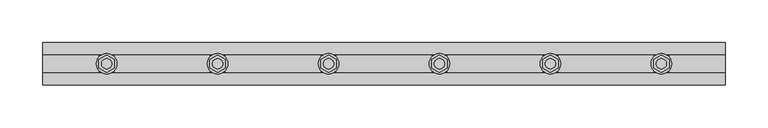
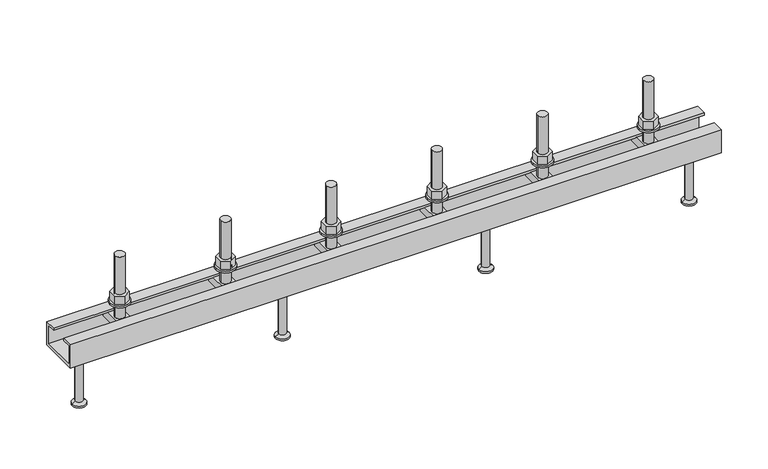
"""IFC4 building model written with IfcOpenShell, lengths in millimetres: fastener geometry, JTA-K JORDAHL® AnchorChannels : JTA-K L=800 mm."""

import ifcopenshell
import ifcopenshell.guid

model = None  # the IFC model being written
_history = None  # IfcOwnerHistory: only IFC2X3 demands one
_inside = {}  # id of a spatial element -> (the spatial element, [elements in it])
_under = {}  # id of a project, library or spatial element -> (it, [spatial elements below it])
_declared = {}  # id of a project -> (the project, [libraries it declares])
_typed = {}  # id of a type object -> (the type object, [elements of that type])
_made_of = {}  # id of a material, layer set ... -> (it, [elements and type objects made of it])


def new_model(schema):
    """Start an empty IFC model of exactly this schema.

    Asked for "IFC4X3", IfcOpenShell would pick the latest addendum, in which some entities
    have other attributes; the version numbers below select the first issue.
    IFC2X3 requires an IfcOwnerHistory on every rooted entity: one is made here for all.
    """
    global model, _history
    if schema == "IFC4X3":
        model = ifcopenshell.file(schema_version=(4, 3, 0, 0))
    else:
        model = ifcopenshell.file(schema=schema)
    _inside.clear()
    _under.clear()
    _declared.clear()
    _typed.clear()
    _made_of.clear()
    _history = None
    if model.schema == "IFC2X3":
        org = make("IfcOrganization", Name="unknown")
        user = make(
            "IfcPersonAndOrganization",
            ThePerson=make("IfcPerson", FamilyName="unknown"),
            TheOrganization=org,
        )
        app = make(
            "IfcApplication",
            ApplicationDeveloper=org,
            Version="unknown",
            ApplicationFullName="unknown",
            ApplicationIdentifier="unknown",
        )
        _history = make(
            "IfcOwnerHistory",
            OwningUser=user,
            OwningApplication=app,
            ChangeAction="ADDED",
            CreationDate=0,
        )
    return model


def make(cls, **values):
    """One entity of the class cls with the attributes given. An attribute that is None is left unset."""
    return model.create_entity(
        cls, **{name: value for name, value in values.items() if value is not None}
    )


def rooted(cls, **values):
    """An entity with a GlobalId (a new one), such as an element, a storey or a relation."""
    return make(cls, GlobalId=ifcopenshell.guid.new(), OwnerHistory=_history, **values)


def si_unit(unit_type, name, prefix=None):
    """IfcSIUnit, for example si_unit("LENGTHUNIT", "METRE", prefix="MILLI")."""
    return make("IfcSIUnit", UnitType=unit_type, Prefix=prefix, Name=name)


def assignment(units):
    """IfcUnitAssignment: the units of a project."""
    return None if units is None else make("IfcUnitAssignment", Units=units)


def point(xyz):
    """IfcCartesianPoint."""
    return None if xyz is None else make("IfcCartesianPoint", Coordinates=xyz)


def direction(xyz):
    """IfcDirection."""
    return None if xyz is None else make("IfcDirection", DirectionRatios=xyz)


def frame(location, z_axis=None, x_axis=None):
    """IfcAxis2Placement3D, a coordinate frame: its origin and axes. An axis left out is left unset."""
    return make(
        "IfcAxis2Placement3D",
        Location=point(location),
        Axis=direction(z_axis),
        RefDirection=direction(x_axis),
    )


def frame_2d(location, x_axis=None):
    """IfcAxis2Placement2D, a coordinate frame in the plane: its origin and x axis."""
    return make(
        "IfcAxis2Placement2D", Location=point(location), RefDirection=direction(x_axis)
    )


def origin():
    """The frame at (0, 0, 0) with its axes left unset."""
    return frame((0.0, 0.0, 0.0))


def place(relative_to, where):
    """IfcLocalPlacement: puts the frame where relative to a parent placement (None: the world)."""
    return make(
        "IfcLocalPlacement", PlacementRelTo=relative_to, RelativePlacement=where
    )


def context(
    kind, dimensions, precision=None, world=None, true_north=None, identifier=None
):
    """IfcGeometricRepresentationContext, for example the 3D "Model" context."""
    return make(
        "IfcGeometricRepresentationContext",
        ContextIdentifier=identifier,
        ContextType=kind,
        CoordinateSpaceDimension=dimensions,
        Precision=precision,
        WorldCoordinateSystem=world,
        TrueNorth=true_north,
    )


def project(units=None, contexts=None):
    """IfcProject with its units and contexts."""
    return rooted(
        "IfcProject",
        Name="project",
        RepresentationContexts=contexts,
        UnitsInContext=assignment(units),
    )


def spatial(cls, under=None, at=None, **own):
    """A site, building, storey or space (cls), placed at a placement, below another one or the project."""
    s = rooted(cls, ObjectPlacement=at, **own)
    if under is not None:
        _under.setdefault(under.id(), (under, []))[1].append(s)
    return s


def polyline(points):
    """IfcPolyline through the points."""
    return make("IfcPolyline", Points=[point(p) for p in points])


def circle_curve(where, radius):
    """IfcCircle in the frame where."""
    return make("IfcCircle", Position=where, Radius=radius)


def trimmed(basis, trim1, trim2, sense, master):
    """IfcTrimmedCurve: the piece of a basis curve between two trims."""
    return make(
        "IfcTrimmedCurve",
        BasisCurve=basis,
        Trim1=trim1,
        Trim2=trim2,
        SenseAgreement=sense,
        MasterRepresentation=master,
    )


def segment(curve, same_sense, transition):
    """IfcCompositeCurveSegment."""
    return make(
        "IfcCompositeCurveSegment",
        Transition=transition,
        SameSense=same_sense,
        ParentCurve=curve,
    )


def composite_curve(segments, self_intersect=None):
    """IfcCompositeCurve: segments joined end to end."""
    return make("IfcCompositeCurve", Segments=segments, SelfIntersect=self_intersect)


def outline(outer, holes=None, kind="AREA"):
    """IfcArbitraryClosedProfileDef: a profile drawn as a closed curve; with holes, ...WithVoids."""
    if holes is None:
        return make("IfcArbitraryClosedProfileDef", ProfileType=kind, OuterCurve=outer)
    return make(
        "IfcArbitraryProfileDefWithVoids",
        ProfileType=kind,
        OuterCurve=outer,
        InnerCurves=holes,
    )


def extrude(swept, where, along, depth):
    """IfcExtrudedAreaSolid: the profile swept, set in the frame where, extruded along a direction by depth."""
    return make(
        "IfcExtrudedAreaSolid",
        SweptArea=swept,
        Position=where,
        ExtrudedDirection=direction(along),
        Depth=depth,
    )


def shape(context_of_items, identifier, shape_type, items):
    """IfcShapeRepresentation: the items that make up one representation, for example the "Body"."""
    return make(
        "IfcShapeRepresentation",
        ContextOfItems=context_of_items,
        RepresentationIdentifier=identifier,
        RepresentationType=shape_type,
        Items=items,
    )


def source(mapping_origin, context_of_items, identifier, shape_type, items):
    """IfcRepresentationMap: a shape defined once, which mapped items show again and again."""
    return make(
        "IfcRepresentationMap",
        MappingOrigin=mapping_origin,
        MappedRepresentation=shape(context_of_items, identifier, shape_type, items),
    )


def transform(
    local_origin,
    x_axis=None,
    y_axis=None,
    z_axis=None,
    scale=None,
    scale2=None,
    scale3=None,
    uniform=True,
):
    """IfcCartesianTransformationOperator3D, or its non-uniform kind. x_axis, y_axis, z_axis: its Axis1, 2, 3."""
    if uniform:
        return make(
            "IfcCartesianTransformationOperator3D",
            Axis1=direction(x_axis),
            Axis2=direction(y_axis),
            LocalOrigin=point(local_origin),
            Scale=scale,
            Axis3=direction(z_axis),
        )
    return make(
        "IfcCartesianTransformationOperator3DnonUniform",
        Axis1=direction(x_axis),
        Axis2=direction(y_axis),
        LocalOrigin=point(local_origin),
        Scale=scale,
        Axis3=direction(z_axis),
        Scale2=scale2,
        Scale3=scale3,
    )


def mapped(mapping_source, mapping_target):
    """IfcMappedItem: shows the shape of a source again, moved by a transform."""
    return make(
        "IfcMappedItem", MappingSource=mapping_source, MappingTarget=mapping_target
    )


def made_of(thing, what):
    """Note that an element or type object is made of a material, layer set ...; save() writes the relation."""
    if what is not None:
        _made_of.setdefault(what.id(), (what, []))[1].append(thing)
    return thing


def element(
    cls,
    number,
    at=None,
    inside=None,
    cuts=None,
    type_object=None,
    material=None,
    context=None,
    identifier="Body",
    shape_type=None,
    held_by="IfcProductDefinitionShape",
    body=None,
    shapes=None,
    **own,
):
    """One element of the class cls, such as IfcWall. Its Tag is "e" and its number.

    at: its placement. inside: the storey or other place that contains it. cuts: it is an
    opening in that element (IfcRelVoidsElement). A single representation is given by context,
    identifier, shape_type and body (its items); several are given by shapes. held_by: the class
    of the entity that holds the representations. save() writes the other relations.
    """
    e = rooted(cls, Tag="e%d" % number, ObjectPlacement=at, **own)
    if body is not None:
        shapes = [shape(context, identifier, shape_type, body)]
    if shapes is not None:
        e.Representation = make(held_by, Representations=shapes)
    if inside is not None:
        _inside.setdefault(inside.id(), (inside, []))[1].append(e)
    if cuts is not None:
        rooted(
            "IfcRelVoidsElement", RelatingBuildingElement=cuts, RelatedOpeningElement=e
        )
    if type_object is not None:
        _typed.setdefault(type_object.id(), (type_object, []))[1].append(e)
    return made_of(e, material)


def aggregate(whole, parts):
    """IfcRelAggregates: a whole, such as a stair, and the parts it consists of."""
    return rooted("IfcRelAggregates", RelatingObject=whole, RelatedObjects=parts)


def save(model, path):
    """Write the relations noted so far, then the file.

    IfcRelAggregates (storeys below a building ...), IfcRelContainedInSpatialStructure (elements
    in a storey), IfcRelDefinesByType, IfcRelAssociatesMaterial and IfcRelDeclares: one each for
    every whole, place, type object, material and project.
    """
    for whole, parts in _under.values():
        aggregate(whole, parts)
    for where, things in _inside.values():
        rooted(
            "IfcRelContainedInSpatialStructure",
            RelatedElements=things,
            RelatingStructure=where,
        )
    for kind, things in _typed.values():
        rooted("IfcRelDefinesByType", RelatedObjects=things, RelatingType=kind)
    for what, things in _made_of.values():
        rooted("IfcRelAssociatesMaterial", RelatedObjects=things, RelatingMaterial=what)
    for by, libraries in _declared.values():
        rooted("IfcRelDeclares", RelatingContext=by, RelatedDefinitions=libraries)
    model.write(path)


def plane_surface(at):
    """IfcPlane: the flat surface through the origin of the frame at, square to its z axis."""
    return make("IfcPlane", Position=at)


def cylinder_surface(at, radius):
    """IfcCylindricalSurface: all points at the distance radius from the z axis of the frame at."""
    return make("IfcCylindricalSurface", Position=at, Radius=radius)


def revolved_surface(curve, axis_point, axis_direction):
    """IfcSurfaceOfRevolution: the curve turned about the line through axis_point along axis_direction."""
    return make(
        "IfcSurfaceOfRevolution",
        SweptCurve=make("IfcArbitraryOpenProfileDef", ProfileType="CURVE", Curve=curve),
        AxisPosition=make("IfcAxis1Placement", Location=point(axis_point), Axis=direction(axis_direction)),
    )


def advanced_brep(points, edges, surfaces, faces):
    """IfcAdvancedBrep: a solid bounded by faces that lie on surfaces and meet in shared edges.

    An edge is (start, end): straight between two places in points (the first is 0);
    or (start, end, curve); or (start, end, curve, False) where it runs against its curve.
    A face is (place in surfaces, loops), or (place, loops, False) where it looks against
    its surface's normal. A loop lists edges by number (the first is 1), with a minus sign
    where the edge is run from its end to its start. The first loop is the outer one.
    """
    corners = [point(p) for p in points]
    vertices = [make("IfcVertexPoint", VertexGeometry=c) for c in corners]
    made = []
    for start, end, *more in edges:
        made.append(
            make(
                "IfcEdgeCurve",
                EdgeStart=vertices[start],
                EdgeEnd=vertices[end],
                EdgeGeometry=more[0] if more else make("IfcPolyline", Points=[corners[start], corners[end]]),
                SameSense=more[1] if len(more) > 1 else True,
            )
        )
    hull = []
    for where, loops, *sense in faces:
        bounds = []
        for j, loop in enumerate(loops):
            ring = [make("IfcOrientedEdge", EdgeElement=made[abs(k) - 1], Orientation=k > 0) for k in loop]
            bounds.append(
                make(
                    "IfcFaceOuterBound" if j == 0 else "IfcFaceBound",
                    Bound=make("IfcEdgeLoop", EdgeList=ring),
                    Orientation=True,
                )
            )
        hull.append(make("IfcAdvancedFace", Bounds=bounds, FaceSurface=surfaces[where], SameSense=sense[0] if sense else True))
    return make("IfcAdvancedBrep", Outer=make("IfcClosedShell", CfsFaces=hull))


def fastener_23f97d67(model_context):
    return source(origin(), model_context, "Body", "SolidModel", [
        extrude(outline(polyline([(595.0, -10.3923048), (586.0, -5.1961524), (586.0, 5.1961524), (595.0, 10.3923048), (604.0, 5.1961524), (604.0, -5.1961524), (595.0, -10.3923048)]), holes=[composite_curve([segment(trimmed(circle_curve(frame_2d((595.0, 0.0)), 6.0), [point((589.0, 0.0))], [point((601.0, 0.0))], True, "CARTESIAN"), True, "CONTINUOUS"), segment(trimmed(circle_curve(frame_2d((595.0, 0.0)), 6.0), [point((601.0, 0.0))], [point((589.0, 0.0))], True, "CARTESIAN"), True, "CONTINUOUS")], self_intersect=False)]), frame((0.0, 0.0, 17.5), z_axis=(0.0, 0.0, 1.0), x_axis=(1.0, 0.0, 0.0)), (0.0, 0.0, 1.0), 10.8),
        extrude(outline(composite_curve([segment(trimmed(circle_curve(frame_2d((595.0, 0.0)), 12.0), [point((583.0, 0.0))], [point((607.0, 0.0))], False, "CARTESIAN"), True, "CONTINUOUS"), segment(trimmed(circle_curve(frame_2d((595.0, 0.0)), 12.0), [point((607.0, 0.0))], [point((583.0, 0.0))], False, "CARTESIAN"), True, "CONTINUOUS")], self_intersect=False), holes=[composite_curve([segment(trimmed(circle_curve(frame_2d((595.0, 0.0)), 6.5), [point((588.5, 0.0))], [point((601.5, 0.0))], True, "CARTESIAN"), True, "CONTINUOUS"), segment(trimmed(circle_curve(frame_2d((595.0, 0.0)), 6.5), [point((601.5, 0.0))], [point((588.5, 0.0))], True, "CARTESIAN"), True, "CONTINUOUS")], self_intersect=False)]), frame((0.0, 0.0, 15.0), z_axis=(0.0, 0.0, 1.0), x_axis=(1.0, 0.0, 0.0)), (0.0, 0.0, 1.0), 2.5),
        extrude(outline(polyline([(465.0, -10.3923048), (456.0, -5.1961524), (456.0, 5.1961524), (465.0, 10.3923048), (474.0, 5.1961524), (474.0, -5.1961524), (465.0, -10.3923048)]), holes=[composite_curve([segment(trimmed(circle_curve(frame_2d((465.0, 0.0)), 6.0), [point((459.0, 0.0))], [point((471.0, 0.0))], True, "CARTESIAN"), True, "CONTINUOUS"), segment(trimmed(circle_curve(frame_2d((465.0, 0.0)), 6.0), [point((471.0, 0.0))], [point((459.0, 0.0))], True, "CARTESIAN"), True, "CONTINUOUS")], self_intersect=False)]), frame((0.0, 0.0, 17.5), z_axis=(0.0, 0.0, 1.0), x_axis=(1.0, 0.0, 0.0)), (0.0, 0.0, 1.0), 10.8),
        extrude(outline(composite_curve([segment(trimmed(circle_curve(frame_2d((465.0, 0.0)), 12.0), [point((453.0, 0.0))], [point((477.0, 0.0))], False, "CARTESIAN"), True, "CONTINUOUS"), segment(trimmed(circle_curve(frame_2d((465.0, 0.0)), 12.0), [point((477.0, 0.0))], [point((453.0, 0.0))], False, "CARTESIAN"), True, "CONTINUOUS")], self_intersect=False), holes=[composite_curve([segment(trimmed(circle_curve(frame_2d((465.0, 0.0)), 6.5), [point((458.5, 0.0))], [point((471.5, 0.0))], True, "CARTESIAN"), True, "CONTINUOUS"), segment(trimmed(circle_curve(frame_2d((465.0, 0.0)), 6.5), [point((471.5, 0.0))], [point((458.5, 0.0))], True, "CARTESIAN"), True, "CONTINUOUS")], self_intersect=False)]), frame((0.0, 0.0, 15.0), z_axis=(0.0, 0.0, 1.0), x_axis=(1.0, 0.0, 0.0)), (0.0, 0.0, 1.0), 2.5),
        extrude(outline(polyline([(335.0, -10.3923048), (326.0, -5.1961524), (326.0, 5.1961524), (335.0, 10.3923048), (344.0, 5.1961524), (344.0, -5.1961524), (335.0, -10.3923048)]), holes=[composite_curve([segment(trimmed(circle_curve(frame_2d((335.0, 0.0)), 6.0), [point((329.0, 0.0))], [point((341.0, 0.0))], True, "CARTESIAN"), True, "CONTINUOUS"), segment(trimmed(circle_curve(frame_2d((335.0, 0.0)), 6.0), [point((341.0, 0.0))], [point((329.0, 0.0))], True, "CARTESIAN"), True, "CONTINUOUS")], self_intersect=False)]), frame((0.0, 0.0, 17.5), z_axis=(0.0, 0.0, 1.0), x_axis=(1.0, 0.0, 0.0)), (0.0, 0.0, 1.0), 10.8),
        extrude(outline(composite_curve([segment(trimmed(circle_curve(frame_2d((335.0, 0.0)), 12.0), [point((323.0, 0.0))], [point((347.0, 0.0))], False, "CARTESIAN"), True, "CONTINUOUS"), segment(trimmed(circle_curve(frame_2d((335.0, 0.0)), 12.0), [point((347.0, 0.0))], [point((323.0, 0.0))], False, "CARTESIAN"), True, "CONTINUOUS")], self_intersect=False), holes=[composite_curve([segment(trimmed(circle_curve(frame_2d((335.0, 0.0)), 6.5), [point((328.5, 0.0))], [point((341.5, 0.0))], True, "CARTESIAN"), True, "CONTINUOUS"), segment(trimmed(circle_curve(frame_2d((335.0, 0.0)), 6.5), [point((341.5, 0.0))], [point((328.5, 0.0))], True, "CARTESIAN"), True, "CONTINUOUS")], self_intersect=False)]), frame((0.0, 0.0, 15.0), z_axis=(0.0, 0.0, 1.0), x_axis=(1.0, 0.0, 0.0)), (0.0, 0.0, 1.0), 2.5),
        extrude(outline(polyline([(205.0, -10.3923048), (196.0, -5.1961524), (196.0, 5.1961524), (205.0, 10.3923048), (214.0, 5.1961524), (214.0, -5.1961524), (205.0, -10.3923048)]), holes=[composite_curve([segment(trimmed(circle_curve(frame_2d((205.0, 0.0)), 6.0), [point((199.0, 0.0))], [point((211.0, 0.0))], True, "CARTESIAN"), True, "CONTINUOUS"), segment(trimmed(circle_curve(frame_2d((205.0, 0.0)), 6.0), [point((211.0, 0.0))], [point((199.0, 0.0))], True, "CARTESIAN"), True, "CONTINUOUS")], self_intersect=False)]), frame((0.0, 0.0, 17.5), z_axis=(0.0, 0.0, 1.0), x_axis=(1.0, 0.0, 0.0)), (0.0, 0.0, 1.0), 10.8),
        extrude(outline(composite_curve([segment(trimmed(circle_curve(frame_2d((205.0, 0.0)), 12.0), [point((193.0, 0.0))], [point((217.0, 0.0))], False, "CARTESIAN"), True, "CONTINUOUS"), segment(trimmed(circle_curve(frame_2d((205.0, 0.0)), 12.0), [point((217.0, 0.0))], [point((193.0, 0.0))], False, "CARTESIAN"), True, "CONTINUOUS")], self_intersect=False), holes=[composite_curve([segment(trimmed(circle_curve(frame_2d((205.0, 0.0)), 6.5), [point((198.5, 0.0))], [point((211.5, 0.0))], True, "CARTESIAN"), True, "CONTINUOUS"), segment(trimmed(circle_curve(frame_2d((205.0, 0.0)), 6.5), [point((211.5, 0.0))], [point((198.5, 0.0))], True, "CARTESIAN"), True, "CONTINUOUS")], self_intersect=False)]), frame((0.0, 0.0, 15.0), z_axis=(0.0, 0.0, 1.0), x_axis=(1.0, 0.0, 0.0)), (0.0, 0.0, 1.0), 2.5),
        advanced_brep(
        [(603.5, -20.7, -3.0), (603.5, -20.7, -13.0), (603.5, 20.7, -13.0), (603.5, 20.7, -3.0), (586.5, -20.7, -3.0), (586.5, 20.7, -3.0), (586.5, 20.7, -13.0), (586.5, -20.7, -13.0), (601.0, 0.0, -3.0), (589.0, 0.0, -3.0), (589.0, 0.0, 77.0), (601.0, 0.0, 77.0)],
        [
            (0, 1),
            (1, 2),
            (2, 3),
            (3, 0),
            (4, 5),
            (5, 6),
            (6, 7),
            (7, 4),
            (3, 5),
            (4, 0),
            (8, 9, circle_curve(frame((595.0, 0.0, -3.0), z_axis=(0.0, 0.0, -1.0), x_axis=(1.0, 0.0, 0.0)), 6.0)),
            (9, 8, circle_curve(frame((595.0, 0.0, -3.0), z_axis=(0.0, 0.0, -1.0), x_axis=(1.0, 0.0, 0.0)), 6.0)),
            (2, 6),
            (1, 7),
            (10, 11, circle_curve(frame((595.0, 0.0, 77.0), z_axis=(0.0, 0.0, 1.0), x_axis=(1.0, 0.0, 0.0)), 6.0)),
            (11, 10, circle_curve(frame((595.0, 0.0, 77.0), z_axis=(0.0, 0.0, 1.0), x_axis=(1.0, 0.0, 0.0)), 6.0)),
            (11, 8),
            (9, 10),
        ],
        [
            plane_surface(frame((603.5, 20.7, -3.0), z_axis=(1.0, 0.0, 0.0), x_axis=(0.0, 1.0, 0.0))),
            plane_surface(frame((586.5, 20.7, -3.0), z_axis=(-1.0, 0.0, 0.0), x_axis=(0.0, -1.0, 0.0))),
            plane_surface(frame((603.5, -20.7, -3.0), z_axis=(0.0, 0.0, 1.0), x_axis=(-1.0, 0.0, 0.0))),
            plane_surface(frame((603.5, 20.7, -3.0), z_axis=(0.0, 1.0, 0.0), x_axis=(-1.0, 0.0, 0.0))),
            plane_surface(frame((603.5, 20.7, -13.0), z_axis=(0.0, 0.0, -1.0), x_axis=(-1.0, 0.0, 0.0))),
            plane_surface(frame((603.5, -20.7, -13.0), z_axis=(0.0, -1.0, 0.0), x_axis=(-1.0, 0.0, 0.0))),
            plane_surface(frame((601.0, 0.0, 77.0), z_axis=(0.0, 0.0, 1.0), x_axis=(0.0, -1.0, 0.0))),
            cylinder_surface(frame((595.0, 0.0, -3.0), z_axis=(0.0, 0.0, 1.0), x_axis=(1.0, 0.0, 0.0)), 6.0),
        ],
        [
            (0, [[1, 2, 3, 4]]),
            (1, [[5, 6, 7, 8]]),
            (2, [[9, -5, 10, -4], [11, 12]]),
            (3, [[13, -6, -9, -3]]),
            (4, [[14, -7, -13, -2]]),
            (5, [[-10, -8, -14, -1]]),
            (6, [[15, 16]]),
            (7, [[17, -12, 18, -16]]),
            (7, [[-18, -11, -17, -15]]),
        ],
    ),
        advanced_brep(
        [(473.5, -20.7, -3.0), (473.5, -20.7, -13.0), (473.5, 20.7, -13.0), (473.5, 20.7, -3.0), (456.5, -20.7, -3.0), (456.5, 20.7, -3.0), (456.5, 20.7, -13.0), (456.5, -20.7, -13.0), (471.0, 0.0, -3.0), (459.0, 0.0, -3.0), (459.0, 0.0, 77.0), (471.0, 0.0, 77.0)],
        [
            (0, 1),
            (1, 2),
            (2, 3),
            (3, 0),
            (4, 5),
            (5, 6),
            (6, 7),
            (7, 4),
            (3, 5),
            (4, 0),
            (8, 9, circle_curve(frame((465.0, 0.0, -3.0), z_axis=(0.0, 0.0, -1.0), x_axis=(1.0, 0.0, 0.0)), 6.0)),
            (9, 8, circle_curve(frame((465.0, 0.0, -3.0), z_axis=(0.0, 0.0, -1.0), x_axis=(1.0, 0.0, 0.0)), 6.0)),
            (2, 6),
            (1, 7),
            (10, 11, circle_curve(frame((465.0, 0.0, 77.0), z_axis=(0.0, 0.0, 1.0), x_axis=(1.0, 0.0, 0.0)), 6.0)),
            (11, 10, circle_curve(frame((465.0, 0.0, 77.0), z_axis=(0.0, 0.0, 1.0), x_axis=(1.0, 0.0, 0.0)), 6.0)),
            (11, 8),
            (9, 10),
        ],
        [
            plane_surface(frame((473.5, 20.7, -3.0), z_axis=(1.0, 0.0, 0.0), x_axis=(0.0, 1.0, 0.0))),
            plane_surface(frame((456.5, 20.7, -3.0), z_axis=(-1.0, 0.0, 0.0), x_axis=(0.0, -1.0, 0.0))),
            plane_surface(frame((473.5, -20.7, -3.0), z_axis=(0.0, 0.0, 1.0), x_axis=(-1.0, 0.0, 0.0))),
            plane_surface(frame((473.5, 20.7, -3.0), z_axis=(0.0, 1.0, 0.0), x_axis=(-1.0, 0.0, 0.0))),
            plane_surface(frame((473.5, 20.7, -13.0), z_axis=(0.0, 0.0, -1.0), x_axis=(-1.0, 0.0, 0.0))),
            plane_surface(frame((473.5, -20.7, -13.0), z_axis=(0.0, -1.0, 0.0), x_axis=(-1.0, 0.0, 0.0))),
            plane_surface(frame((471.0, 0.0, 77.0), z_axis=(0.0, 0.0, 1.0), x_axis=(0.0, -1.0, 0.0))),
            cylinder_surface(frame((465.0, 0.0, -3.0), z_axis=(0.0, 0.0, 1.0), x_axis=(1.0, 0.0, 0.0)), 6.0),
        ],
        [
            (0, [[1, 2, 3, 4]]),
            (1, [[5, 6, 7, 8]]),
            (2, [[9, -5, 10, -4], [11, 12]]),
            (3, [[13, -6, -9, -3]]),
            (4, [[14, -7, -13, -2]]),
            (5, [[-10, -8, -14, -1]]),
            (6, [[15, 16]]),
            (7, [[17, -12, 18, -16]]),
            (7, [[-18, -11, -17, -15]]),
        ],
    ),
        advanced_brep(
        [(343.5, -20.7, -3.0), (343.5, -20.7, -13.0), (343.5, 20.7, -13.0), (343.5, 20.7, -3.0), (326.5, -20.7, -3.0), (326.5, 20.7, -3.0), (326.5, 20.7, -13.0), (326.5, -20.7, -13.0), (341.0, 0.0, -3.0), (329.0, 0.0, -3.0), (329.0, 0.0, 77.0), (341.0, 0.0, 77.0)],
        [
            (0, 1),
            (1, 2),
            (2, 3),
            (3, 0),
            (4, 5),
            (5, 6),
            (6, 7),
            (7, 4),
            (3, 5),
            (4, 0),
            (8, 9, circle_curve(frame((335.0, 0.0, -3.0), z_axis=(0.0, 0.0, -1.0), x_axis=(1.0, 0.0, 0.0)), 6.0)),
            (9, 8, circle_curve(frame((335.0, 0.0, -3.0), z_axis=(0.0, 0.0, -1.0), x_axis=(1.0, 0.0, 0.0)), 6.0)),
            (2, 6),
            (1, 7),
            (10, 11, circle_curve(frame((335.0, 0.0, 77.0), z_axis=(0.0, 0.0, 1.0), x_axis=(1.0, 0.0, 0.0)), 6.0)),
            (11, 10, circle_curve(frame((335.0, 0.0, 77.0), z_axis=(0.0, 0.0, 1.0), x_axis=(1.0, 0.0, 0.0)), 6.0)),
            (11, 8),
            (9, 10),
        ],
        [
            plane_surface(frame((343.5, 20.7, -3.0), z_axis=(1.0, 0.0, 0.0), x_axis=(0.0, 1.0, 0.0))),
            plane_surface(frame((326.5, 20.7, -3.0), z_axis=(-1.0, 0.0, 0.0), x_axis=(0.0, -1.0, 0.0))),
            plane_surface(frame((343.5, -20.7, -3.0), z_axis=(0.0, 0.0, 1.0), x_axis=(-1.0, 0.0, 0.0))),
            plane_surface(frame((343.5, 20.7, -3.0), z_axis=(0.0, 1.0, 0.0), x_axis=(-1.0, 0.0, 0.0))),
            plane_surface(frame((343.5, 20.7, -13.0), z_axis=(0.0, 0.0, -1.0), x_axis=(-1.0, 0.0, 0.0))),
            plane_surface(frame((343.5, -20.7, -13.0), z_axis=(0.0, -1.0, 0.0), x_axis=(-1.0, 0.0, 0.0))),
            plane_surface(frame((341.0, 0.0, 77.0), z_axis=(0.0, 0.0, 1.0), x_axis=(0.0, -1.0, 0.0))),
            cylinder_surface(frame((335.0, 0.0, -3.0), z_axis=(0.0, 0.0, 1.0), x_axis=(1.0, 0.0, 0.0)), 6.0),
        ],
        [
            (0, [[1, 2, 3, 4]]),
            (1, [[5, 6, 7, 8]]),
            (2, [[9, -5, 10, -4], [11, 12]]),
            (3, [[13, -6, -9, -3]]),
            (4, [[14, -7, -13, -2]]),
            (5, [[-10, -8, -14, -1]]),
            (6, [[15, 16]]),
            (7, [[17, -12, 18, -16]]),
            (7, [[-18, -11, -17, -15]]),
        ],
    ),
        advanced_brep(
        [(213.5, -20.7, -3.0), (213.5, -20.7, -13.0), (213.5, 20.7, -13.0), (213.5, 20.7, -3.0), (196.5, -20.7, -3.0), (196.5, 20.7, -3.0), (196.5, 20.7, -13.0), (196.5, -20.7, -13.0), (211.0, 0.0, -3.0), (199.0, 0.0, -3.0), (199.0, 0.0, 77.0), (211.0, 0.0, 77.0)],
        [
            (0, 1),
            (1, 2),
            (2, 3),
            (3, 0),
            (4, 5),
            (5, 6),
            (6, 7),
            (7, 4),
            (3, 5),
            (4, 0),
            (8, 9, circle_curve(frame((205.0, 0.0, -3.0), z_axis=(0.0, 0.0, -1.0), x_axis=(1.0, 0.0, 0.0)), 6.0)),
            (9, 8, circle_curve(frame((205.0, 0.0, -3.0), z_axis=(0.0, 0.0, -1.0), x_axis=(1.0, 0.0, 0.0)), 6.0)),
            (2, 6),
            (1, 7),
            (10, 11, circle_curve(frame((205.0, 0.0, 77.0), z_axis=(0.0, 0.0, 1.0), x_axis=(1.0, 0.0, 0.0)), 6.0)),
            (11, 10, circle_curve(frame((205.0, 0.0, 77.0), z_axis=(0.0, 0.0, 1.0), x_axis=(1.0, 0.0, 0.0)), 6.0)),
            (11, 8),
            (9, 10),
        ],
        [
            plane_surface(frame((213.5, 20.7, -3.0), z_axis=(1.0, 0.0, 0.0), x_axis=(0.0, 1.0, 0.0))),
            plane_surface(frame((196.5, 20.7, -3.0), z_axis=(-1.0, 0.0, 0.0), x_axis=(0.0, -1.0, 0.0))),
            plane_surface(frame((213.5, -20.7, -3.0), z_axis=(0.0, 0.0, 1.0), x_axis=(-1.0, 0.0, 0.0))),
            plane_surface(frame((213.5, 20.7, -3.0), z_axis=(0.0, 1.0, 0.0), x_axis=(-1.0, 0.0, 0.0))),
            plane_surface(frame((213.5, 20.7, -13.0), z_axis=(0.0, 0.0, -1.0), x_axis=(-1.0, 0.0, 0.0))),
            plane_surface(frame((213.5, -20.7, -13.0), z_axis=(0.0, -1.0, 0.0), x_axis=(-1.0, 0.0, 0.0))),
            plane_surface(frame((211.0, 0.0, 77.0), z_axis=(0.0, 0.0, 1.0), x_axis=(0.0, -1.0, 0.0))),
            cylinder_surface(frame((205.0, 0.0, -3.0), z_axis=(0.0, 0.0, 1.0), x_axis=(1.0, 0.0, 0.0)), 6.0),
        ],
        [
            (0, [[1, 2, 3, 4]]),
            (1, [[5, 6, 7, 8]]),
            (2, [[9, -5, 10, -4], [11, 12]]),
            (3, [[13, -6, -9, -3]]),
            (4, [[14, -7, -13, -2]]),
            (5, [[-10, -8, -14, -1]]),
            (6, [[15, 16]]),
            (7, [[17, -12, 18, -16]]),
            (7, [[-18, -11, -17, -15]]),
        ],
    ),
        advanced_brep(
        [(525.0, 0.0, -30.0), (511.5, 0.0, -30.0), (538.5, 0.0, -30.0), (516.5, 0.0, -100.0), (525.0, 0.0, -100.0), (533.5, 0.0, -100.0), (516.5, 0.0, -98.0), (533.5, 0.0, -98.0), (520.5, 0.0, -95.6905989), (529.5, 0.0, -95.6905989), (520.5, 0.0, -32.5), (529.5, 0.0, -32.5)],
        [
            (0, 1),
            (1, 2, circle_curve(frame((525.0, 0.0, -30.0), z_axis=(0.0, 0.0, 1.0), x_axis=(1.0, 0.0, 0.0)), 13.5)),
            (2, 0),
            (2, 1, circle_curve(frame((525.0, 0.0, -30.0), z_axis=(0.0, 0.0, 1.0), x_axis=(1.0, 0.0, 0.0)), 13.5)),
            (3, 4),
            (4, 5),
            (5, 3, circle_curve(frame((525.0, 0.0, -100.0), z_axis=(0.0, 0.0, -1.0), x_axis=(1.0, 0.0, 0.0)), 8.5)),
            (3, 5, circle_curve(frame((525.0, 0.0, -100.0), z_axis=(0.0, 0.0, -1.0), x_axis=(1.0, 0.0, 0.0)), 8.5)),
            (6, 3),
            (5, 7),
            (7, 6, circle_curve(frame((525.0, 0.0, -98.0), z_axis=(0.0, 0.0, -1.0), x_axis=(1.0, 0.0, 0.0)), 8.5)),
            (6, 7, circle_curve(frame((525.0, 0.0, -98.0), z_axis=(0.0, 0.0, -1.0), x_axis=(1.0, 0.0, 0.0)), 8.5)),
            (8, 6),
            (7, 9),
            (9, 8, circle_curve(frame((525.0, 0.0, -95.6905989), z_axis=(0.0, 0.0, -1.0), x_axis=(1.0, 0.0, 0.0)), 4.5)),
            (8, 9, circle_curve(frame((525.0, 0.0, -95.6905989), z_axis=(0.0, 0.0, -1.0), x_axis=(1.0, 0.0, 0.0)), 4.5)),
            (10, 8),
            (9, 11),
            (11, 10, circle_curve(frame((525.0, 0.0, -32.5), z_axis=(0.0, 0.0, -1.0), x_axis=(1.0, 0.0, 0.0)), 4.5)),
            (10, 11, circle_curve(frame((525.0, 0.0, -32.5), z_axis=(0.0, 0.0, -1.0), x_axis=(1.0, 0.0, 0.0)), 4.5)),
            (1, 10),
            (11, 2),
        ],
        [
            plane_surface(frame((525.0, 0.0, -30.0), z_axis=(0.0, 0.0, 1.0), x_axis=(1.0, 0.0, 0.0))),
            plane_surface(frame((525.0, 0.0, -100.0), z_axis=(0.0, 0.0, -1.0), x_axis=(1.0, 0.0, 0.0))),
            cylinder_surface(frame((525.0, 0.0, 2284.3150031), z_axis=(0.0, 0.0, 1.0), x_axis=(1.0, 0.0, 0.0)), 8.5),
            revolved_surface(polyline([(533.5, 0.0, -98.0), (529.5, 0.0, -95.6905989)]), (525.0, 0.0, 2284.3150031), (0.0, 0.0, 1.0)),
            cylinder_surface(frame((525.0, 0.0, 2284.3150031), z_axis=(0.0, 0.0, 1.0), x_axis=(1.0, 0.0, 0.0)), 4.5),
            revolved_surface(polyline([(529.5, 0.0, -32.5), (538.5, 0.0, -30.0)]), (525.0, 0.0, 2284.3150031), (0.0, 0.0, 1.0)),
        ],
        [
            (0, [[1, 2, 3]]),
            (0, [[-3, 4, -1]]),
            (1, [[5, 6, 7]]),
            (1, [[-6, -5, 8]]),
            (2, [[9, -7, 10, 11]]),
            (2, [[-10, -8, -9, 12]]),
            (3, [[13, -11, 14, 15]]),
            (3, [[-14, -12, -13, 16]]),
            (4, [[17, -15, 18, 19]]),
            (4, [[-18, -16, -17, 20]]),
            (5, [[21, -19, 22, -2]]),
            (5, [[-22, -20, -21, -4]]),
        ],
    ),
        advanced_brep(
        [(275.0, 0.0, -30.0), (261.5, 0.0, -30.0), (288.5, 0.0, -30.0), (266.5, 0.0, -100.0), (275.0, 0.0, -100.0), (283.5, 0.0, -100.0), (266.5, 0.0, -98.0), (283.5, 0.0, -98.0), (270.5, 0.0, -95.6905989), (279.5, 0.0, -95.6905989), (270.5, 0.0, -32.5), (279.5, 0.0, -32.5)],
        [
            (0, 1),
            (1, 2, circle_curve(frame((275.0, 0.0, -30.0), z_axis=(0.0, 0.0, 1.0), x_axis=(1.0, 0.0, 0.0)), 13.5)),
            (2, 0),
            (2, 1, circle_curve(frame((275.0, 0.0, -30.0), z_axis=(0.0, 0.0, 1.0), x_axis=(1.0, 0.0, 0.0)), 13.5)),
            (3, 4),
            (4, 5),
            (5, 3, circle_curve(frame((275.0, 0.0, -100.0), z_axis=(0.0, 0.0, -1.0), x_axis=(1.0, 0.0, 0.0)), 8.5)),
            (3, 5, circle_curve(frame((275.0, 0.0, -100.0), z_axis=(0.0, 0.0, -1.0), x_axis=(1.0, 0.0, 0.0)), 8.5)),
            (6, 3),
            (5, 7),
            (7, 6, circle_curve(frame((275.0, 0.0, -98.0), z_axis=(0.0, 0.0, -1.0), x_axis=(1.0, 0.0, 0.0)), 8.5)),
            (6, 7, circle_curve(frame((275.0, 0.0, -98.0), z_axis=(0.0, 0.0, -1.0), x_axis=(1.0, 0.0, 0.0)), 8.5)),
            (8, 6),
            (7, 9),
            (9, 8, circle_curve(frame((275.0, 0.0, -95.6905989), z_axis=(0.0, 0.0, -1.0), x_axis=(1.0, 0.0, 0.0)), 4.5)),
            (8, 9, circle_curve(frame((275.0, 0.0, -95.6905989), z_axis=(0.0, 0.0, -1.0), x_axis=(1.0, 0.0, 0.0)), 4.5)),
            (10, 8),
            (9, 11),
            (11, 10, circle_curve(frame((275.0, 0.0, -32.5), z_axis=(0.0, 0.0, -1.0), x_axis=(1.0, 0.0, 0.0)), 4.5)),
            (10, 11, circle_curve(frame((275.0, 0.0, -32.5), z_axis=(0.0, 0.0, -1.0), x_axis=(1.0, 0.0, 0.0)), 4.5)),
            (1, 10),
            (11, 2),
        ],
        [
            plane_surface(frame((275.0, 0.0, -30.0), z_axis=(0.0, 0.0, 1.0), x_axis=(1.0, 0.0, 0.0))),
            plane_surface(frame((275.0, 0.0, -100.0), z_axis=(0.0, 0.0, -1.0), x_axis=(1.0, 0.0, 0.0))),
            cylinder_surface(frame((275.0, 0.0, 2284.3150031), z_axis=(0.0, 0.0, 1.0), x_axis=(1.0, 0.0, 0.0)), 8.5),
            revolved_surface(polyline([(283.5, 0.0, -98.0), (279.5, 0.0, -95.6905989)]), (275.0, 0.0, 2284.3150031), (0.0, 0.0, 1.0)),
            cylinder_surface(frame((275.0, 0.0, 2284.3150031), z_axis=(0.0, 0.0, 1.0), x_axis=(1.0, 0.0, 0.0)), 4.5),
            revolved_surface(polyline([(279.5, 0.0, -32.5), (288.5, 0.0, -30.0)]), (275.0, 0.0, 2284.3150031), (0.0, 0.0, 1.0)),
        ],
        [
            (0, [[1, 2, 3]]),
            (0, [[-3, 4, -1]]),
            (1, [[5, 6, 7]]),
            (1, [[-6, -5, 8]]),
            (2, [[9, -7, 10, 11]]),
            (2, [[-10, -8, -9, 12]]),
            (3, [[13, -11, 14, 15]]),
            (3, [[-14, -12, -13, 16]]),
            (4, [[17, -15, 18, 19]]),
            (4, [[-18, -16, -17, 20]]),
            (5, [[21, -19, 22, -2]]),
            (5, [[-22, -20, -21, -4]]),
        ],
    ),
        extrude(outline(polyline([(725.0, -10.3923048), (716.0, -5.1961524), (716.0, 5.1961524), (725.0, 10.3923048), (734.0, 5.1961524), (734.0, -5.1961524), (725.0, -10.3923048)]), holes=[composite_curve([segment(trimmed(circle_curve(frame_2d((725.0, 0.0)), 6.0), [point((719.0, 0.0))], [point((731.0, 0.0))], True, "CARTESIAN"), True, "CONTINUOUS"), segment(trimmed(circle_curve(frame_2d((725.0, 0.0)), 6.0), [point((731.0, 0.0))], [point((719.0, 0.0))], True, "CARTESIAN"), True, "CONTINUOUS")], self_intersect=False)]), frame((0.0, 0.0, 17.5), z_axis=(0.0, 0.0, 1.0), x_axis=(1.0, 0.0, 0.0)), (0.0, 0.0, 1.0), 10.8),
        extrude(outline(composite_curve([segment(trimmed(circle_curve(frame_2d((725.0, 0.0)), 12.0), [point((713.0, 0.0))], [point((737.0, 0.0))], False, "CARTESIAN"), True, "CONTINUOUS"), segment(trimmed(circle_curve(frame_2d((725.0, 0.0)), 12.0), [point((737.0, 0.0))], [point((713.0, 0.0))], False, "CARTESIAN"), True, "CONTINUOUS")], self_intersect=False), holes=[composite_curve([segment(trimmed(circle_curve(frame_2d((725.0, 0.0)), 6.5), [point((718.5, 0.0))], [point((731.5, 0.0))], True, "CARTESIAN"), True, "CONTINUOUS"), segment(trimmed(circle_curve(frame_2d((725.0, 0.0)), 6.5), [point((731.5, 0.0))], [point((718.5, 0.0))], True, "CARTESIAN"), True, "CONTINUOUS")], self_intersect=False)]), frame((0.0, 0.0, 15.0), z_axis=(0.0, 0.0, 1.0), x_axis=(1.0, 0.0, 0.0)), (0.0, 0.0, 1.0), 2.5),
        extrude(outline(polyline([(75.0, -10.3923048), (66.0, -5.1961524), (66.0, 5.1961524), (75.0, 10.3923048), (84.0, 5.1961524), (84.0, -5.1961524), (75.0, -10.3923048)]), holes=[composite_curve([segment(trimmed(circle_curve(frame_2d((75.0, 0.0)), 6.0), [point((69.0, 0.0))], [point((81.0, 0.0))], True, "CARTESIAN"), True, "CONTINUOUS"), segment(trimmed(circle_curve(frame_2d((75.0, 0.0)), 6.0), [point((81.0, 0.0))], [point((69.0, 0.0))], True, "CARTESIAN"), True, "CONTINUOUS")], self_intersect=False)]), frame((0.0, 0.0, 17.5), z_axis=(0.0, 0.0, 1.0), x_axis=(1.0, 0.0, 0.0)), (0.0, 0.0, 1.0), 10.8),
        extrude(outline(composite_curve([segment(trimmed(circle_curve(frame_2d((75.0, 0.0)), 12.0), [point((63.0, 0.0))], [point((87.0, 0.0))], False, "CARTESIAN"), True, "CONTINUOUS"), segment(trimmed(circle_curve(frame_2d((75.0, 0.0)), 12.0), [point((87.0, 0.0))], [point((63.0, 0.0))], False, "CARTESIAN"), True, "CONTINUOUS")], self_intersect=False), holes=[composite_curve([segment(trimmed(circle_curve(frame_2d((75.0, 0.0)), 6.5), [point((68.5, 0.0))], [point((81.5, 0.0))], True, "CARTESIAN"), True, "CONTINUOUS"), segment(trimmed(circle_curve(frame_2d((75.0, 0.0)), 6.5), [point((81.5, 0.0))], [point((68.5, 0.0))], True, "CARTESIAN"), True, "CONTINUOUS")], self_intersect=False)]), frame((0.0, 0.0, 15.0), z_axis=(0.0, 0.0, 1.0), x_axis=(1.0, 0.0, 0.0)), (0.0, 0.0, 1.0), 2.5),
        advanced_brep(
        [(733.5, -20.7, -3.0), (733.5, -20.7, -13.0), (733.5, 20.7, -13.0), (733.5, 20.7, -3.0), (716.5, -20.7, -3.0), (716.5, 20.7, -3.0), (716.5, 20.7, -13.0), (716.5, -20.7, -13.0), (731.0, 0.0, -3.0), (719.0, 0.0, -3.0), (719.0, 0.0, 77.0), (731.0, 0.0, 77.0)],
        [
            (0, 1),
            (1, 2),
            (2, 3),
            (3, 0),
            (4, 5),
            (5, 6),
            (6, 7),
            (7, 4),
            (3, 5),
            (4, 0),
            (8, 9, circle_curve(frame((725.0, 0.0, -3.0), z_axis=(0.0, 0.0, -1.0), x_axis=(1.0, 0.0, 0.0)), 6.0)),
            (9, 8, circle_curve(frame((725.0, 0.0, -3.0), z_axis=(0.0, 0.0, -1.0), x_axis=(1.0, 0.0, 0.0)), 6.0)),
            (2, 6),
            (1, 7),
            (10, 11, circle_curve(frame((725.0, 0.0, 77.0), z_axis=(0.0, 0.0, 1.0), x_axis=(1.0, 0.0, 0.0)), 6.0)),
            (11, 10, circle_curve(frame((725.0, 0.0, 77.0), z_axis=(0.0, 0.0, 1.0), x_axis=(1.0, 0.0, 0.0)), 6.0)),
            (11, 8),
            (9, 10),
        ],
        [
            plane_surface(frame((733.5, 20.7, -3.0), z_axis=(1.0, 0.0, 0.0), x_axis=(0.0, 1.0, 0.0))),
            plane_surface(frame((716.5, 20.7, -3.0), z_axis=(-1.0, 0.0, 0.0), x_axis=(0.0, -1.0, 0.0))),
            plane_surface(frame((733.5, -20.7, -3.0), z_axis=(0.0, 0.0, 1.0), x_axis=(-1.0, 0.0, 0.0))),
            plane_surface(frame((733.5, 20.7, -3.0), z_axis=(0.0, 1.0, 0.0), x_axis=(-1.0, 0.0, 0.0))),
            plane_surface(frame((733.5, 20.7, -13.0), z_axis=(0.0, 0.0, -1.0), x_axis=(-1.0, 0.0, 0.0))),
            plane_surface(frame((733.5, -20.7, -13.0), z_axis=(0.0, -1.0, 0.0), x_axis=(-1.0, 0.0, 0.0))),
            plane_surface(frame((731.0, 0.0, 77.0), z_axis=(0.0, 0.0, 1.0), x_axis=(0.0, -1.0, 0.0))),
            cylinder_surface(frame((725.0, 0.0, -3.0), z_axis=(0.0, 0.0, 1.0), x_axis=(1.0, 0.0, 0.0)), 6.0),
        ],
        [
            (0, [[1, 2, 3, 4]]),
            (1, [[5, 6, 7, 8]]),
            (2, [[9, -5, 10, -4], [11, 12]]),
            (3, [[13, -6, -9, -3]]),
            (4, [[14, -7, -13, -2]]),
            (5, [[-10, -8, -14, -1]]),
            (6, [[15, 16]]),
            (7, [[17, -12, 18, -16]]),
            (7, [[-18, -11, -17, -15]]),
        ],
    ),
        advanced_brep(
        [(83.5, -20.7, -3.0), (83.5, -20.7, -13.0), (83.5, 20.7, -13.0), (83.5, 20.7, -3.0), (66.5, -20.7, -3.0), (66.5, 20.7, -3.0), (66.5, 20.7, -13.0), (66.5, -20.7, -13.0), (81.0, 0.0, -3.0), (69.0, 0.0, -3.0), (69.0, 0.0, 77.0), (81.0, 0.0, 77.0)],
        [
            (0, 1),
            (1, 2),
            (2, 3),
            (3, 0),
            (4, 5),
            (5, 6),
            (6, 7),
            (7, 4),
            (3, 5),
            (4, 0),
            (8, 9, circle_curve(frame((75.0, 0.0, -3.0), z_axis=(0.0, 0.0, -1.0), x_axis=(1.0, 0.0, 0.0)), 6.0)),
            (9, 8, circle_curve(frame((75.0, 0.0, -3.0), z_axis=(0.0, 0.0, -1.0), x_axis=(1.0, 0.0, 0.0)), 6.0)),
            (2, 6),
            (1, 7),
            (10, 11, circle_curve(frame((75.0, 0.0, 77.0), z_axis=(0.0, 0.0, 1.0), x_axis=(1.0, 0.0, 0.0)), 6.0)),
            (11, 10, circle_curve(frame((75.0, 0.0, 77.0), z_axis=(0.0, 0.0, 1.0), x_axis=(1.0, 0.0, 0.0)), 6.0)),
            (11, 8),
            (9, 10),
        ],
        [
            plane_surface(frame((83.5, 20.7, -3.0), z_axis=(1.0, 0.0, 0.0), x_axis=(0.0, 1.0, 0.0))),
            plane_surface(frame((66.5, 20.7, -3.0), z_axis=(-1.0, 0.0, 0.0), x_axis=(0.0, -1.0, 0.0))),
            plane_surface(frame((83.5, -20.7, -3.0), z_axis=(0.0, 0.0, 1.0), x_axis=(-1.0, 0.0, 0.0))),
            plane_surface(frame((83.5, 20.7, -3.0), z_axis=(0.0, 1.0, 0.0), x_axis=(-1.0, 0.0, 0.0))),
            plane_surface(frame((83.5, 20.7, -13.0), z_axis=(0.0, 0.0, -1.0), x_axis=(-1.0, 0.0, 0.0))),
            plane_surface(frame((83.5, -20.7, -13.0), z_axis=(0.0, -1.0, 0.0), x_axis=(-1.0, 0.0, 0.0))),
            plane_surface(frame((81.0, 0.0, 77.0), z_axis=(0.0, 0.0, 1.0), x_axis=(0.0, -1.0, 0.0))),
            cylinder_surface(frame((75.0, 0.0, -3.0), z_axis=(0.0, 0.0, 1.0), x_axis=(1.0, 0.0, 0.0)), 6.0),
        ],
        [
            (0, [[1, 2, 3, 4]]),
            (1, [[5, 6, 7, 8]]),
            (2, [[9, -5, 10, -4], [11, 12]]),
            (3, [[13, -6, -9, -3]]),
            (4, [[14, -7, -13, -2]]),
            (5, [[-10, -8, -14, -1]]),
            (6, [[15, 16]]),
            (7, [[17, -12, 18, -16]]),
            (7, [[-18, -11, -17, -15]]),
        ],
    ),
        advanced_brep(
        [(775.0, 0.0, -30.0), (761.5, 0.0, -30.0), (788.5, 0.0, -30.0), (766.5, 0.0, -100.0), (775.0, 0.0, -100.0), (783.5, 0.0, -100.0), (766.5, 0.0, -98.0), (783.5, 0.0, -98.0), (770.5, 0.0, -95.6905989), (779.5, 0.0, -95.6905989), (770.5, 0.0, -32.5), (779.5, 0.0, -32.5)],
        [
            (0, 1),
            (1, 2, circle_curve(frame((775.0, 0.0, -30.0), z_axis=(0.0, 0.0, 1.0), x_axis=(1.0, 0.0, 0.0)), 13.5)),
            (2, 0),
            (2, 1, circle_curve(frame((775.0, 0.0, -30.0), z_axis=(0.0, 0.0, 1.0), x_axis=(1.0, 0.0, 0.0)), 13.5)),
            (3, 4),
            (4, 5),
            (5, 3, circle_curve(frame((775.0, 0.0, -100.0), z_axis=(0.0, 0.0, -1.0), x_axis=(1.0, 0.0, 0.0)), 8.5)),
            (3, 5, circle_curve(frame((775.0, 0.0, -100.0), z_axis=(0.0, 0.0, -1.0), x_axis=(1.0, 0.0, 0.0)), 8.5)),
            (6, 3),
            (5, 7),
            (7, 6, circle_curve(frame((775.0, 0.0, -98.0), z_axis=(0.0, 0.0, -1.0), x_axis=(1.0, 0.0, 0.0)), 8.5)),
            (6, 7, circle_curve(frame((775.0, 0.0, -98.0), z_axis=(0.0, 0.0, -1.0), x_axis=(1.0, 0.0, 0.0)), 8.5)),
            (8, 6),
            (7, 9),
            (9, 8, circle_curve(frame((775.0, 0.0, -95.6905989), z_axis=(0.0, 0.0, -1.0), x_axis=(1.0, 0.0, 0.0)), 4.5)),
            (8, 9, circle_curve(frame((775.0, 0.0, -95.6905989), z_axis=(0.0, 0.0, -1.0), x_axis=(1.0, 0.0, 0.0)), 4.5)),
            (10, 8),
            (9, 11),
            (11, 10, circle_curve(frame((775.0, 0.0, -32.5), z_axis=(0.0, 0.0, -1.0), x_axis=(1.0, 0.0, 0.0)), 4.5)),
            (10, 11, circle_curve(frame((775.0, 0.0, -32.5), z_axis=(0.0, 0.0, -1.0), x_axis=(1.0, 0.0, 0.0)), 4.5)),
            (1, 10),
            (11, 2),
        ],
        [
            plane_surface(frame((775.0, 0.0, -30.0), z_axis=(0.0, 0.0, 1.0), x_axis=(1.0, 0.0, 0.0))),
            plane_surface(frame((775.0, 0.0, -100.0), z_axis=(0.0, 0.0, -1.0), x_axis=(1.0, 0.0, 0.0))),
            cylinder_surface(frame((775.0, 0.0, 2284.3150031), z_axis=(0.0, 0.0, 1.0), x_axis=(1.0, 0.0, 0.0)), 8.5),
            revolved_surface(polyline([(783.5, 0.0, -98.0), (779.5, 0.0, -95.6905989)]), (775.0, 0.0, 2284.3150031), (0.0, 0.0, 1.0)),
            cylinder_surface(frame((775.0, 0.0, 2284.3150031), z_axis=(0.0, 0.0, 1.0), x_axis=(1.0, 0.0, 0.0)), 4.5),
            revolved_surface(polyline([(779.5, 0.0, -32.5), (788.5, 0.0, -30.0)]), (775.0, 0.0, 2284.3150031), (0.0, 0.0, 1.0)),
        ],
        [
            (0, [[1, 2, 3]]),
            (0, [[-3, 4, -1]]),
            (1, [[5, 6, 7]]),
            (1, [[-6, -5, 8]]),
            (2, [[9, -7, 10, 11]]),
            (2, [[-10, -8, -9, 12]]),
            (3, [[13, -11, 14, 15]]),
            (3, [[-14, -12, -13, 16]]),
            (4, [[17, -15, 18, 19]]),
            (4, [[-18, -16, -17, 20]]),
            (5, [[21, -19, 22, -2]]),
            (5, [[-22, -20, -21, -4]]),
        ],
    ),
        advanced_brep(
        [(25.0, 0.0, -30.0), (11.5, 0.0, -30.0), (38.5, 0.0, -30.0), (16.5, 0.0, -100.0), (25.0, 0.0, -100.0), (33.5, 0.0, -100.0), (16.5, 0.0, -98.0), (33.5, 0.0, -98.0), (20.5, 0.0, -95.6905989), (29.5, 0.0, -95.6905989), (20.5, 0.0, -32.5), (29.5, 0.0, -32.5)],
        [
            (0, 1),
            (1, 2, circle_curve(frame((25.0, 0.0, -30.0), z_axis=(0.0, 0.0, 1.0), x_axis=(1.0, 0.0, 0.0)), 13.5)),
            (2, 0),
            (2, 1, circle_curve(frame((25.0, 0.0, -30.0), z_axis=(0.0, 0.0, 1.0), x_axis=(1.0, 0.0, 0.0)), 13.5)),
            (3, 4),
            (4, 5),
            (5, 3, circle_curve(frame((25.0, 0.0, -100.0), z_axis=(0.0, 0.0, -1.0), x_axis=(1.0, 0.0, 0.0)), 8.5)),
            (3, 5, circle_curve(frame((25.0, 0.0, -100.0), z_axis=(0.0, 0.0, -1.0), x_axis=(1.0, 0.0, 0.0)), 8.5)),
            (6, 3),
            (5, 7),
            (7, 6, circle_curve(frame((25.0, 0.0, -98.0), z_axis=(0.0, 0.0, -1.0), x_axis=(1.0, 0.0, 0.0)), 8.5)),
            (6, 7, circle_curve(frame((25.0, 0.0, -98.0), z_axis=(0.0, 0.0, -1.0), x_axis=(1.0, 0.0, 0.0)), 8.5)),
            (8, 6),
            (7, 9),
            (9, 8, circle_curve(frame((25.0, 0.0, -95.6905989), z_axis=(0.0, 0.0, -1.0), x_axis=(1.0, 0.0, 0.0)), 4.5)),
            (8, 9, circle_curve(frame((25.0, 0.0, -95.6905989), z_axis=(0.0, 0.0, -1.0), x_axis=(1.0, 0.0, 0.0)), 4.5)),
            (10, 8),
            (9, 11),
            (11, 10, circle_curve(frame((25.0, 0.0, -32.5), z_axis=(0.0, 0.0, -1.0), x_axis=(1.0, 0.0, 0.0)), 4.5)),
            (10, 11, circle_curve(frame((25.0, 0.0, -32.5), z_axis=(0.0, 0.0, -1.0), x_axis=(1.0, 0.0, 0.0)), 4.5)),
            (1, 10),
            (11, 2),
        ],
        [
            plane_surface(frame((25.0, 0.0, -30.0), z_axis=(0.0, 0.0, 1.0), x_axis=(1.0, 0.0, 0.0))),
            plane_surface(frame((25.0, 0.0, -100.0), z_axis=(0.0, 0.0, -1.0), x_axis=(1.0, 0.0, 0.0))),
            cylinder_surface(frame((25.0, 0.0, 2284.3150031), z_axis=(0.0, 0.0, 1.0), x_axis=(1.0, 0.0, 0.0)), 8.5),
            revolved_surface(polyline([(33.5, 0.0, -98.0), (29.5, 0.0, -95.6905989)]), (25.0, 0.0, 2284.3150031), (0.0, 0.0, 1.0)),
            cylinder_surface(frame((25.0, 0.0, 2284.3150031), z_axis=(0.0, 0.0, 1.0), x_axis=(1.0, 0.0, 0.0)), 4.5),
            revolved_surface(polyline([(29.5, 0.0, -32.5), (38.5, 0.0, -30.0)]), (25.0, 0.0, 2284.3150031), (0.0, 0.0, 1.0)),
        ],
        [
            (0, [[1, 2, 3]]),
            (0, [[-3, 4, -1]]),
            (1, [[5, 6, 7]]),
            (1, [[-6, -5, 8]]),
            (2, [[9, -7, 10, 11]]),
            (2, [[-10, -8, -9, 12]]),
            (3, [[13, -11, 14, 15]]),
            (3, [[-14, -12, -13, 16]]),
            (4, [[17, -15, 18, 19]]),
            (4, [[-18, -16, -17, 20]]),
            (5, [[21, -19, 22, -2]]),
            (5, [[-22, -20, -21, -4]]),
        ],
    ),
        extrude(outline(polyline([(-25.0, 0.0), (-11.0, 0.0), (-11.0, -3.0), (-22.0, -3.0), (-22.0, -27.0), (22.0, -27.0), (22.0, -3.0), (11.0, -3.0), (11.0, 0.0), (25.0, 0.0), (25.0, -30.0), (-25.0, -30.0), (-25.0, 0.0)])), frame((0.0, 0.0, 0.0), z_axis=(1.0, 0.0, 0.0), x_axis=(0.0, 1.0, 0.0)), (0.0, 0.0, 1.0), 800.0),
    ])


if __name__ == "__main__":
    model = new_model("IFC4")
    model_context = context("Model", 3, world=origin())
    ifc_project = project(units=[si_unit("LENGTHUNIT", "METRE", prefix="MILLI")], contexts=[model_context])
    site = spatial("IfcSite", under=ifc_project)
    building = spatial("IfcBuilding", under=site)
    placement = place(None, origin())
    fastener_shape = fastener_23f97d67(model_context)
    element("IfcFastener", 1, ObjectType="JTA-K JORDAHL® AnchorChannels : JTA-K L=800 mm", at=placement, inside=building, context=model_context, shape_type="MappedRepresentation", body=[
        mapped(fastener_shape, transform((0.0, 0.0, 0.0), x_axis=(1.0, 0.0, 0.0), y_axis=(0.0, 1.0, 0.0), z_axis=(0.0, 0.0, 1.0))),
    ])
    save(model, "model.ifc")
